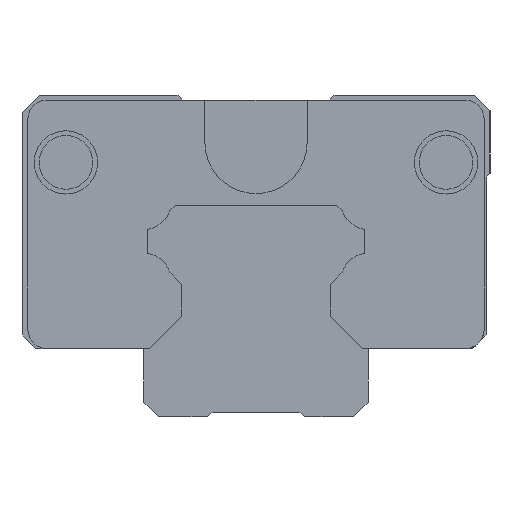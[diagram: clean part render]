
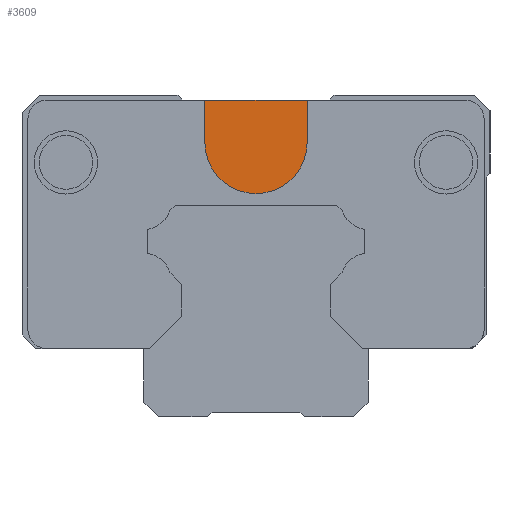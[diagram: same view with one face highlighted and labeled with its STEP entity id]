
A CAD part, left-side view. The second image highlights one B-rep face of the part: STEP entity #3609.
In plain terms, the highlighted planar face has unit normal (-1, 0, 0).
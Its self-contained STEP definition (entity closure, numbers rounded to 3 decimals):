
#3494=CARTESIAN_POINT('',(165.092,5.25,32.5));
#3495=VERTEX_POINT('',#3494);
#3496=CARTESIAN_POINT('',(165.092,5.25,28.15));
#3497=VERTEX_POINT('',#3496);
#3498=CARTESIAN_POINT('',(165.092,5.25,32.5));
#3499=DIRECTION('',(0.0,0.0,-1.0));
#3500=VECTOR('',#3499,4.35);
#3501=LINE('',#3498,#3500);
#3502=EDGE_CURVE('',#3495,#3497,#3501,.T.);
#3534=CARTESIAN_POINT('',(165.092,-5.25,28.15));
#3535=VERTEX_POINT('',#3534);
#3536=CARTESIAN_POINT('',(165.092,0.,28.15));
#3537=DIRECTION('',(-1.0,0.0,0.0));
#3538=DIRECTION('',(0.0,-1.0,0.0));
#3539=AXIS2_PLACEMENT_3D('',#3536,#3537,#3538);
#3540=CIRCLE('',#3539,5.25);
#3541=EDGE_CURVE('',#3497,#3535,#3540,.T.);
#3567=CARTESIAN_POINT('',(165.092,-5.25,32.5));
#3568=VERTEX_POINT('',#3567);
#3569=CARTESIAN_POINT('',(165.092,-5.25,28.15));
#3570=DIRECTION('',(0.0,0.0,1.0));
#3571=VECTOR('',#3570,4.35);
#3572=LINE('',#3569,#3571);
#3573=EDGE_CURVE('',#3535,#3568,#3572,.T.);
#3593=CARTESIAN_POINT('',(165.092,0.,28.567));
#3594=DIRECTION('',(1.0,0.0,0.0));
#3595=DIRECTION('',(0.0,0.0,-1.0));
#3596=AXIS2_PLACEMENT_3D('',#3593,#3594,#3595);
#3597=PLANE('',#3596);
#3598=CARTESIAN_POINT('',(165.092,5.25,32.5));
#3599=DIRECTION('',(0.0,-1.0,0.0));
#3600=VECTOR('',#3599,10.5);
#3601=LINE('',#3598,#3600);
#3602=EDGE_CURVE('',#3495,#3568,#3601,.T.);
#3603=ORIENTED_EDGE('',*,*,#3602,.F.);
#3604=ORIENTED_EDGE('',*,*,#3502,.T.);
#3605=ORIENTED_EDGE('',*,*,#3541,.T.);
#3606=ORIENTED_EDGE('',*,*,#3573,.T.);
#3607=EDGE_LOOP('',(#3603,#3604,#3605,#3606));
#3608=FACE_OUTER_BOUND('',#3607,.T.);
#3609=ADVANCED_FACE('',(#3608),#3597,.F.);
